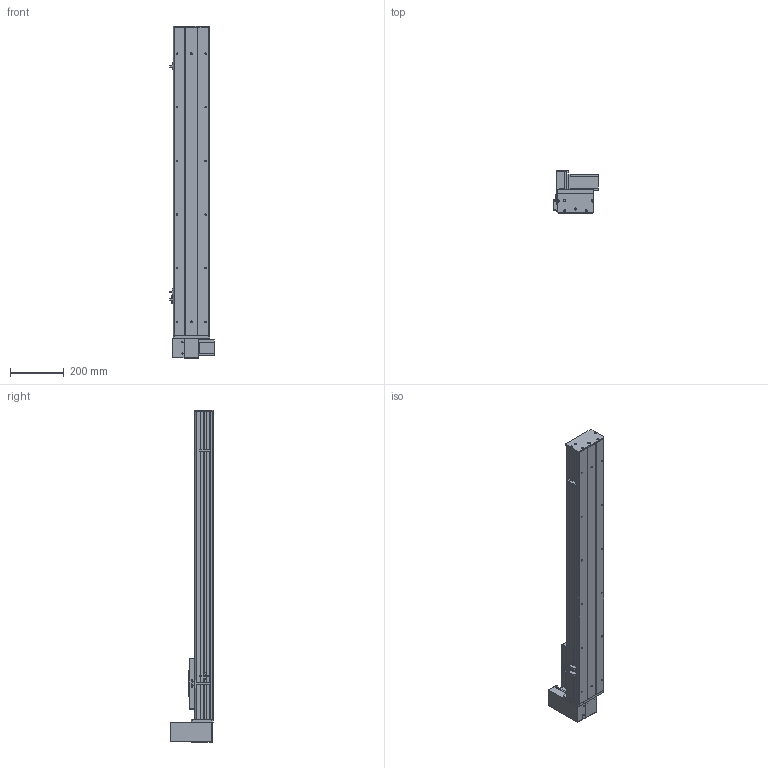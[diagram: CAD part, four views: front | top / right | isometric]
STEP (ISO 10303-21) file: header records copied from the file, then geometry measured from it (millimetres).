
FILE_DESCRIPTION (( 'STEP AP203' ), '1' );
FILE_NAME ('Y135CB-D90-S850-UR-P400W.STEP', '2020-02-18T04:01:21', ( '微软用户' ), ( '微软中国' ), 'SwSTEP 2.0', 'SolidWorks 2017', '' );
FILE_SCHEMA (( 'CONFIG_CONTROL_DESIGN' ));
Length unit declared in the file: millimetre
Products named in the file (18): Y10B--々湍喘謫眊--666; san松下电机400不带刹车----; Y10B-耜蚾蟀諉啣----; 5CB --掛极耜裔啣-; 00B-俋欶BM--; C-詩湍揤踡え-陔; Y135CB-耜裔; Y135CB-D90-S850-UR-P400W; 135CB--詩湍-CE; 135CB---遴掛极.-; Y100-135俋离換覜ん--; 35CB---喘謫眊楊擘啣; Y135C-陔俋离換覜結え-; 0B-埴倛裔啣; 5C--俋欶; 0B-源倛裔啣; C-雄赽釱--; 0B-萇儂楊擘啣
Assembly tree (21 placements, depth 2):
  Y135CB-D90-S850-UR-P400W
    Y135CB-耜裔
    135CB---遴掛极.-
    35CB---喘謫眊楊擘啣
    0B-埴倛裔啣
    0B-源倛裔啣
    0B-萇儂楊擘啣
    san松下电机400不带刹车----
    5CB --掛极耜裔啣-  x2
    C-詩湍揤踡え-陔  x2
    135CB--詩湍-CE
    Y100-135俋离換覜ん--  x3
    Y135C-陔俋离換覜結え-
    5C--俋欶
    C-雄赽釱--
    Y10B--々湍喘謫眊--666
    Y10B-耜蚾蟀諉啣----
    00B-俋欶BM--
Bounding box: 167.5 x 158.7 x 1238 mm (x, y, z)
Volume: 3996972.9 mm3; surface area: 1559815.7 mm2
Topology: 21 solids, 21 shells, 941 faces, 2509 edges, 1662 vertices
Faces by surface type: cylinder 469, plane 456, cone 16
Entity records: 29147 total; most frequent: DIRECTION 4841, CARTESIAN_POINT 4768, ORIENTED_EDGE 4494, EDGE_CURVE 2247, AXIS2_PLACEMENT_3D 1763, VERTEX_POINT 1490, LINE 1315, VECTOR 1315
